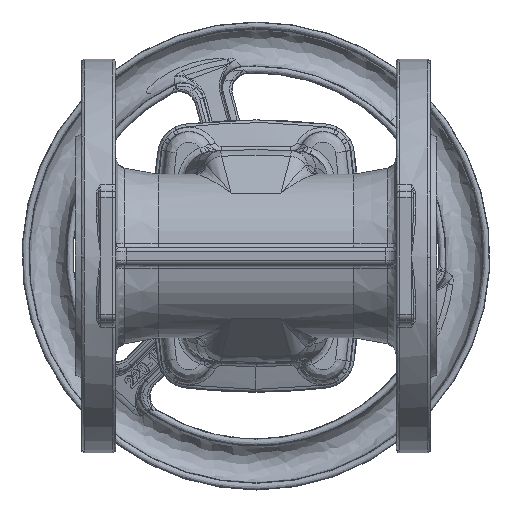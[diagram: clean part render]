
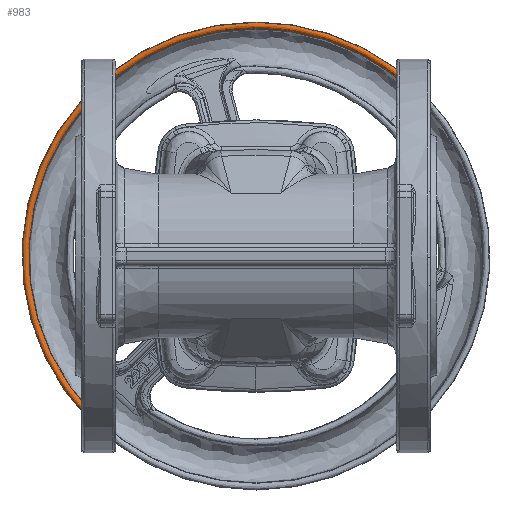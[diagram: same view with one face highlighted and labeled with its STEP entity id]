
A CAD part, front view. The second image highlights one B-rep face of the part: STEP entity #983.
In plain terms, the highlighted free-form (B-spline) face has degree [3, 3] with [4, 4] control points.
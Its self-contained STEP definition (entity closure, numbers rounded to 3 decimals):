
#595 = CARTESIAN_POINT ( 'NONE',  ( -76.609, 255., -76.609 ) ) ;
#650 = DIRECTION ( 'NONE',  ( 0.707, 0., 0.707 ) ) ;
#983 = ADVANCED_FACE ( 'NONE', ( #40032 ), #39752, .T. ) ;
#1387 = AXIS2_PLACEMENT_3D ( 'NONE', #31045, #54245, #49682 ) ;
#3471 = AXIS2_PLACEMENT_3D ( 'NONE', #39061, #62246, #33341 ) ;
#3575 = CIRCLE ( 'NONE', #20650, 1.5 ) ;
#4451 = CARTESIAN_POINT ( 'NONE',  ( 0., 254.948, 109.841 ) ) ;
#14977 = EDGE_CURVE ( 'NONE', #51270, #42251, #19291, .T. ) ;
#17197 = AXIS2_PLACEMENT_3D ( 'NONE', #21439, #34352, #44280 ) ;
#17572 = CARTESIAN_POINT ( 'NONE',  ( -77.6, 252.147, 232.801 ) ) ;
#19129 = ORIENTED_EDGE ( 'NONE', *, *, #64463, .T. ) ;
#19291 = CIRCLE ( 'NONE', #3471, 1.5 ) ;
#20650 = AXIS2_PLACEMENT_3D ( 'NONE', #595, #35621, #70925 ) ;
#21439 = CARTESIAN_POINT ( 'NONE',  ( 0., 254.948, 0. ) ) ;
#21971 = EDGE_CURVE ( 'NONE', #28565, #40030, #3575, .T. ) ;
#22115 = AXIS2_PLACEMENT_3D ( 'NONE', #32449, #55641, #650 ) ;
#22922 = CARTESIAN_POINT ( 'NONE',  ( -75.618, 252.147, 226.855 ) ) ;
#28242 = CARTESIAN_POINT ( 'NONE',  ( -77.6, 252.147, -77.6 ) ) ;
#28565 = VERTEX_POINT ( 'NONE', #68737 ) ;
#29771 = ORIENTED_EDGE ( 'NONE', *, *, #21971, .F. ) ;
#30274 = VERTEX_POINT ( 'NONE', #4451 ) ;
#31045 = CARTESIAN_POINT ( 'NONE',  ( 0., 254.948, 0. ) ) ;
#31922 = EDGE_CURVE ( 'NONE', #28565, #50347, #52389, .T. ) ;
#32449 = CARTESIAN_POINT ( 'NONE',  ( 0., 254.948, 0. ) ) ;
#32846 = ORIENTED_EDGE ( 'NONE', *, *, #31922, .T. ) ;
#33341 = DIRECTION ( 'NONE',  ( 0.707, 0., 0.707 ) ) ;
#34352 = DIRECTION ( 'NONE',  ( 0., 1., 0. ) ) ;
#34696 = CARTESIAN_POINT ( 'NONE',  ( 75.549, 254.948, 75.549 ) ) ;
#35064 = CARTESIAN_POINT ( 'NONE',  ( 77.669, 254.948, 77.669 ) ) ;
#35460 = CIRCLE ( 'NONE', #22115, 109.841 ) ;
#35621 = DIRECTION ( 'NONE',  ( 0.707, 0., -0.707 ) ) ;
#37365 = ORIENTED_EDGE ( 'NONE', *, *, #57065, .F. ) ;
#39061 = CARTESIAN_POINT ( 'NONE',  ( 76.609, 255., 76.609 ) ) ;
#39752 =( BOUNDED_SURFACE ( )  B_SPLINE_SURFACE ( 3, 3, ( 
 ( #34696, #68890, #58634, #51800 ),
 ( #74955, #22922, #40409, #68519 ),
 ( #46499, #17572, #63955, #28242 ),
 ( #35064, #41140, #51439, #70741 ) ),
 .UNSPECIFIED., .F., .F., .T. ) 
 B_SPLINE_SURFACE_WITH_KNOTS ( ( 4, 4 ),
 ( 4, 4 ),
 ( 0., 1. ),
 ( 0., 1. ),
 .UNSPECIFIED. ) 
 GEOMETRIC_REPRESENTATION_ITEM ( )  RATIONAL_B_SPLINE_SURFACE ( (
 ( 1., 0.333, 0.333, 1.),
 ( 0.357, 0.119, 0.119, 0.357),
 ( 0.357, 0.119, 0.119, 0.357),
 ( 1., 0.333, 0.333, 1.) ) ) 
 REPRESENTATION_ITEM ( '' )  SURFACE ( )  );
#40030 = VERTEX_POINT ( 'NONE', #53052 ) ;
#40032 = FACE_OUTER_BOUND ( 'NONE', #68946, .T. ) ;
#40409 = CARTESIAN_POINT ( 'NONE',  ( -226.855, 252.147, 75.618 ) ) ;
#41140 = CARTESIAN_POINT ( 'NONE',  ( -77.669, 254.948, 233.008 ) ) ;
#41822 = EDGE_CURVE ( 'NONE', #30274, #42251, #35460, .T. ) ;
#42251 = VERTEX_POINT ( 'NONE', #60268 ) ;
#43929 = DIRECTION ( 'NONE',  ( 0., 1., 0. ) ) ;
#44177 = ORIENTED_EDGE ( 'NONE', *, *, #14977, .T. ) ;
#44280 = DIRECTION ( 'NONE',  ( -0.707, 0., -0.707 ) ) ;
#46499 = CARTESIAN_POINT ( 'NONE',  ( 77.6, 252.147, 77.6 ) ) ;
#47952 = AXIS2_PLACEMENT_3D ( 'NONE', #49618, #43929, #67073 ) ;
#49618 = CARTESIAN_POINT ( 'NONE',  ( 0., 254.948, 0. ) ) ;
#49682 = DIRECTION ( 'NONE',  ( -0.707, 0., -0.707 ) ) ;
#50347 = VERTEX_POINT ( 'NONE', #60581 ) ;
#51270 = VERTEX_POINT ( 'NONE', #74545 ) ;
#51439 = CARTESIAN_POINT ( 'NONE',  ( -233.008, 254.948, 77.669 ) ) ;
#51800 = CARTESIAN_POINT ( 'NONE',  ( -75.549, 254.948, -75.549 ) ) ;
#52389 = CIRCLE ( 'NONE', #1387, 106.843 ) ;
#53052 = CARTESIAN_POINT ( 'NONE',  ( -77.669, 254.948, -77.669 ) ) ;
#54245 = DIRECTION ( 'NONE',  ( 0., 1., 0. ) ) ;
#55641 = DIRECTION ( 'NONE',  ( 0., 1., 0. ) ) ;
#57065 = EDGE_CURVE ( 'NONE', #40030, #30274, #68534, .T. ) ;
#58508 = CIRCLE ( 'NONE', #17197, 106.843 ) ;
#58634 = CARTESIAN_POINT ( 'NONE',  ( -226.648, 254.948, 75.549 ) ) ;
#60268 = CARTESIAN_POINT ( 'NONE',  ( 77.669, 254.948, 77.669 ) ) ;
#60581 = CARTESIAN_POINT ( 'NONE',  ( 0., 254.948, 106.843 ) ) ;
#62246 = DIRECTION ( 'NONE',  ( -0.707, 0., 0.707 ) ) ;
#63955 = CARTESIAN_POINT ( 'NONE',  ( -232.801, 252.147, 77.6 ) ) ;
#64463 = EDGE_CURVE ( 'NONE', #50347, #51270, #58508, .T. ) ;
#67073 = DIRECTION ( 'NONE',  ( 0.707, 0., 0.707 ) ) ;
#68519 = CARTESIAN_POINT ( 'NONE',  ( -75.618, 252.147, -75.618 ) ) ;
#68534 = CIRCLE ( 'NONE', #47952, 109.841 ) ;
#68737 = CARTESIAN_POINT ( 'NONE',  ( -75.549, 254.948, -75.549 ) ) ;
#68890 = CARTESIAN_POINT ( 'NONE',  ( -75.549, 254.948, 226.648 ) ) ;
#68946 = EDGE_LOOP ( 'NONE', ( #19129, #44177, #73059, #37365, #29771, #32846 ) ) ;
#70741 = CARTESIAN_POINT ( 'NONE',  ( -77.669, 254.948, -77.669 ) ) ;
#70925 = DIRECTION ( 'NONE',  ( -0.707, 0., -0.707 ) ) ;
#73059 = ORIENTED_EDGE ( 'NONE', *, *, #41822, .F. ) ;
#74545 = CARTESIAN_POINT ( 'NONE',  ( 75.549, 254.948, 75.549 ) ) ;
#74955 = CARTESIAN_POINT ( 'NONE',  ( 75.618, 252.147, 75.618 ) ) ;
